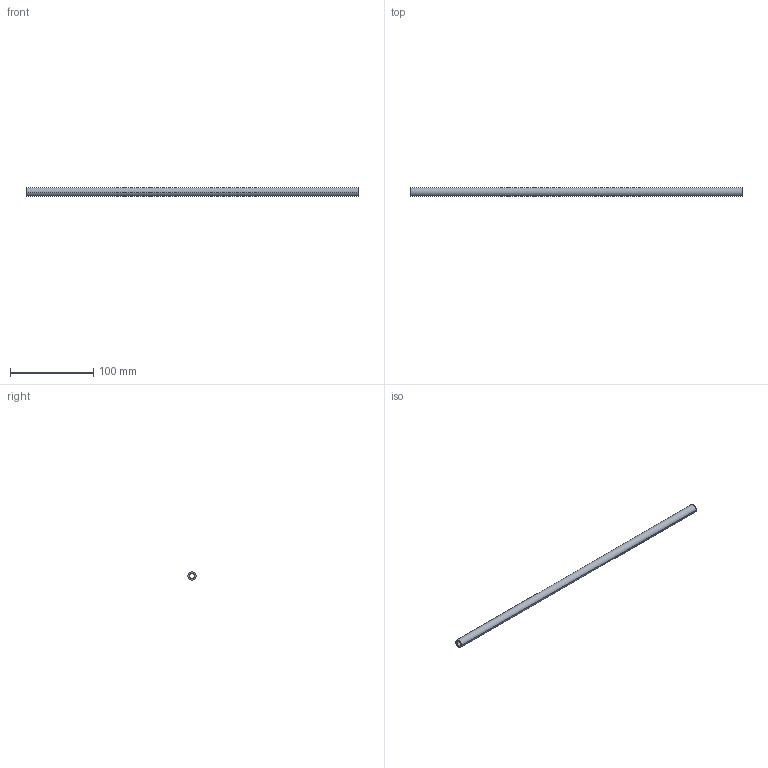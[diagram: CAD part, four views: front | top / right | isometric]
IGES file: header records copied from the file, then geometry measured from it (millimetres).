
Start section: START RECORD GO HERE.
Global section: file name: te106400.igs; native system: DASSAULT SYSTEMES CATIA V5 R20 - www.3ds.com; preprocessor: CATIA Version 5 Release 20 ; author: Utente; organization: NB04-ASUS; date: 20201107.142651; units: millimetre
Bounding box: 400 x 10 x 10 mm (x, y, z)
Surface area: 20432.9 mm2 (no closed solid volume)
Topology: 0 solids, 0 shells, 9 faces, 36 edges, 36 vertices
Faces by surface type: revolution 6, plane 3
